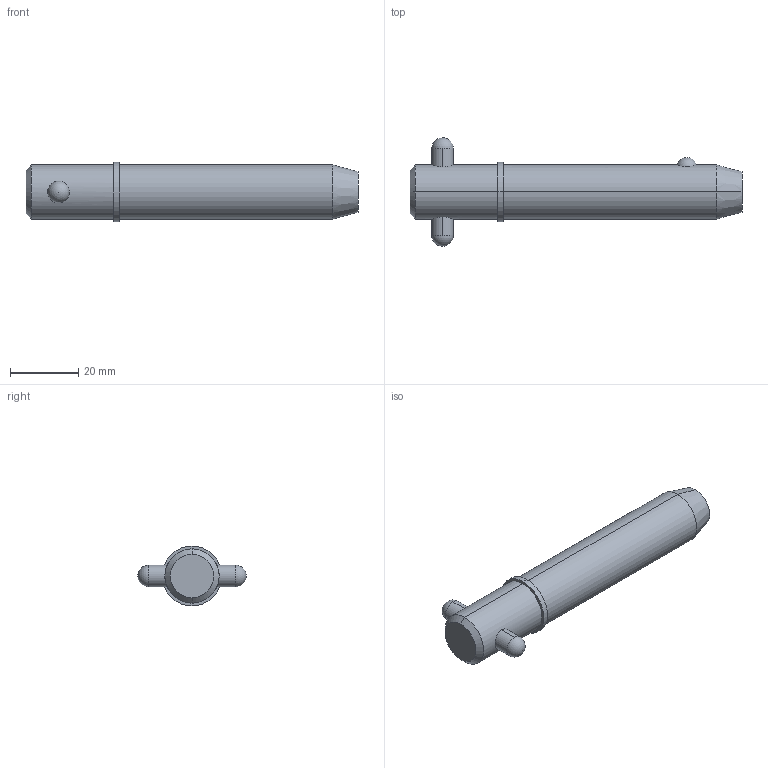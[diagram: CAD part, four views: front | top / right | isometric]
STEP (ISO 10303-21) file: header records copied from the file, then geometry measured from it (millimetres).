
FILE_DESCRIPTION (( 'STEP AP203' ), '1' );
FILE_NAME ('33018.W6220.step', '2024-11-19T17:18:16', ( '' ), ( '' ), 'SwSTEP 2.0', 'SolidWorks 2019', '' );
FILE_SCHEMA (( 'CONFIG_CONTROL_DESIGN' ));
Length unit declared in the file: millimetre
Products named in the file (3): 33018.W6220; Part1_33018.W6220; Part2_33018.W6220
Assembly tree (2 placements, depth 2):
  33018.W6220
    Part1_33018.W6220
    Part2_33018.W6220
Bounding box: 97.16 x 31.75 x 17.47 mm (x, y, z)
Volume: 19396 mm3; surface area: 6053.8 mm2
Topology: 2 solids, 2 shells, 22 faces, 47 edges, 30 vertices
Faces by surface type: cylinder 10, sphere 4, cone 4, plane 4
Entity records: 1047 total; most frequent: CARTESIAN_POINT 290, DIRECTION 110, ORIENTED_EDGE 82, AXIS2_PLACEMENT_3D 48, EDGE_CURVE 41, EDGE_LOOP 27, VERTEX_POINT 26, PERSON_AND_ORGANIZATION 26
